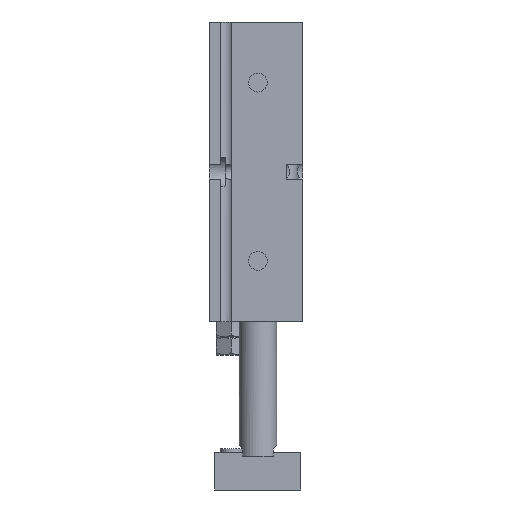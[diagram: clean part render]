
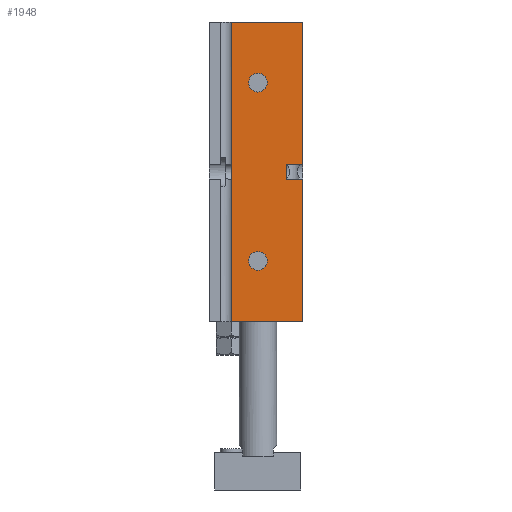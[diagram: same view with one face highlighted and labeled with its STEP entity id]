
A CAD part, front view. The second image highlights one B-rep face of the part: STEP entity #1948.
In plain terms, the highlighted planar face has unit normal (0, -1, 0).
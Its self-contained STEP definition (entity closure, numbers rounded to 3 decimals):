
#1505=CARTESIAN_POINT('',(-7.,-31.,125.0));
#1506=VERTEX_POINT('',#1505);
#1514=CARTESIAN_POINT('',(-7.,-31.,45.0));
#1515=VERTEX_POINT('',#1514);
#1522=CARTESIAN_POINT('',(-7.,-31.,125.0));
#1523=DIRECTION('',(0.0,0.0,-1.0));
#1524=VECTOR('',#1523,80.0);
#1525=LINE('',#1522,#1524);
#1526=EDGE_CURVE('',#1506,#1515,#1525,.T.);
#1677=CARTESIAN_POINT('',(12.,-31.,125.0));
#1678=VERTEX_POINT('',#1677);
#1679=CARTESIAN_POINT('',(12.,-31.,125.0));
#1680=DIRECTION('',(-1.0,0.0,0.0));
#1681=VECTOR('',#1680,19.);
#1682=LINE('',#1679,#1681);
#1683=EDGE_CURVE('',#1678,#1506,#1682,.T.);
#1871=CARTESIAN_POINT('',(12.,-31.,45.0));
#1872=DIRECTION('',(0.0,-1.0,0.0));
#1873=DIRECTION('',(0.0,0.0,-1.0));
#1874=AXIS2_PLACEMENT_3D('',#1871,#1872,#1873);
#1875=PLANE('',#1874);
#1876=ORIENTED_EDGE('',*,*,#1526,.T.);
#1877=CARTESIAN_POINT('',(12.,-31.,45.0));
#1878=VERTEX_POINT('',#1877);
#1879=CARTESIAN_POINT('',(12.,-31.,45.0));
#1880=DIRECTION('',(-1.0,0.0,0.0));
#1881=VECTOR('',#1880,19.);
#1882=LINE('',#1879,#1881);
#1883=EDGE_CURVE('',#1878,#1515,#1882,.T.);
#1884=ORIENTED_EDGE('',*,*,#1883,.F.);
#1885=CARTESIAN_POINT('',(12.,-31.,83.064));
#1886=VERTEX_POINT('',#1885);
#1887=CARTESIAN_POINT('',(12.,-31.,45.0));
#1888=DIRECTION('',(0.0,0.0,1.0));
#1889=VECTOR('',#1888,38.064);
#1890=LINE('',#1887,#1889);
#1891=EDGE_CURVE('',#1878,#1886,#1890,.T.);
#1892=ORIENTED_EDGE('',*,*,#1891,.T.);
#1893=CARTESIAN_POINT('',(7.6,-31.,83.064));
#1894=VERTEX_POINT('',#1893);
#1895=CARTESIAN_POINT('',(12.,-31.,83.064));
#1896=DIRECTION('',(-1.0,0.0,0.0));
#1897=VECTOR('',#1896,4.4);
#1898=LINE('',#1895,#1897);
#1899=EDGE_CURVE('',#1886,#1894,#1898,.T.);
#1900=ORIENTED_EDGE('',*,*,#1899,.T.);
#1901=CARTESIAN_POINT('',(7.6,-31.,86.936));
#1902=VERTEX_POINT('',#1901);
#1903=CARTESIAN_POINT('',(7.6,-31.,83.064));
#1904=DIRECTION('',(0.0,0.0,1.0));
#1905=VECTOR('',#1904,3.873);
#1906=LINE('',#1903,#1905);
#1907=EDGE_CURVE('',#1894,#1902,#1906,.T.);
#1908=ORIENTED_EDGE('',*,*,#1907,.T.);
#1909=CARTESIAN_POINT('',(12.,-31.,86.936));
#1910=VERTEX_POINT('',#1909);
#1911=CARTESIAN_POINT('',(7.6,-31.,86.936));
#1912=DIRECTION('',(1.0,0.0,0.0));
#1913=VECTOR('',#1912,4.4);
#1914=LINE('',#1911,#1913);
#1915=EDGE_CURVE('',#1902,#1910,#1914,.T.);
#1916=ORIENTED_EDGE('',*,*,#1915,.T.);
#1917=CARTESIAN_POINT('',(12.,-31.,86.936));
#1918=DIRECTION('',(0.0,0.0,1.0));
#1919=VECTOR('',#1918,38.064);
#1920=LINE('',#1917,#1919);
#1921=EDGE_CURVE('',#1910,#1678,#1920,.T.);
#1922=ORIENTED_EDGE('',*,*,#1921,.T.);
#1923=ORIENTED_EDGE('',*,*,#1683,.T.);
#1924=EDGE_LOOP('',(#1876,#1884,#1892,#1900,#1908,#1916,#1922,#1923));
#1925=FACE_OUTER_BOUND('',#1924,.T.);
#1926=CARTESIAN_POINT('',(2.5,-31.,108.8));
#1927=VERTEX_POINT('',#1926);
#1928=CARTESIAN_POINT('',(0.0,-31.,108.8));
#1929=DIRECTION('',(0.0,1.0,0.0));
#1930=DIRECTION('',(-1.0,0.0,0.0));
#1931=AXIS2_PLACEMENT_3D('',#1928,#1929,#1930);
#1932=CIRCLE('',#1931,2.5);
#1933=EDGE_CURVE('',#1927,#1927,#1932,.T.);
#1934=ORIENTED_EDGE('',*,*,#1933,.T.);
#1935=EDGE_LOOP('',(#1934));
#1936=FACE_BOUND('',#1935,.T.);
#1937=CARTESIAN_POINT('',(2.5,-31.,61.2));
#1938=VERTEX_POINT('',#1937);
#1939=CARTESIAN_POINT('',(0.0,-31.,61.2));
#1940=DIRECTION('',(0.0,1.0,0.0));
#1941=DIRECTION('',(-1.0,0.0,0.0));
#1942=AXIS2_PLACEMENT_3D('',#1939,#1940,#1941);
#1943=CIRCLE('',#1942,2.5);
#1944=EDGE_CURVE('',#1938,#1938,#1943,.T.);
#1945=ORIENTED_EDGE('',*,*,#1944,.T.);
#1946=EDGE_LOOP('',(#1945));
#1947=FACE_BOUND('',#1946,.T.);
#1948=ADVANCED_FACE('',(#1925,#1936,#1947),#1875,.T.);
